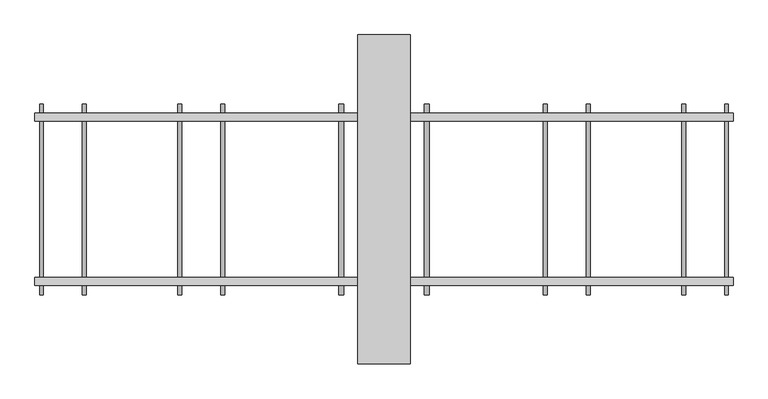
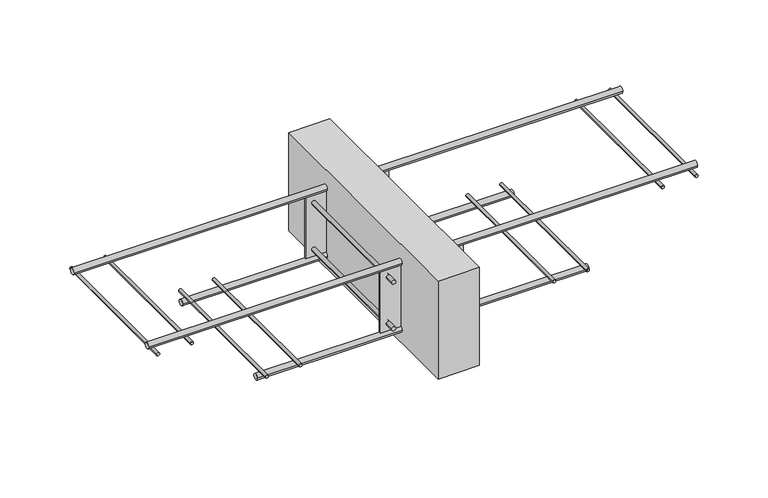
"""IFC4 building model written with IfcOpenShell, lengths in millimetres: proxy geometry, ACINOXplus_Typenreihe_K : KP(A)+."""

import ifcopenshell
import ifcopenshell.guid

model = None  # the IFC model being written
_history = None  # IfcOwnerHistory: only IFC2X3 demands one
_inside = {}  # id of a spatial element -> (the spatial element, [elements in it])
_under = {}  # id of a project, library or spatial element -> (it, [spatial elements below it])
_declared = {}  # id of a project -> (the project, [libraries it declares])
_typed = {}  # id of a type object -> (the type object, [elements of that type])
_made_of = {}  # id of a material, layer set ... -> (it, [elements and type objects made of it])


def new_model(schema):
    """Start an empty IFC model of exactly this schema.

    Asked for "IFC4X3", IfcOpenShell would pick the latest addendum, in which some entities
    have other attributes; the version numbers below select the first issue.
    IFC2X3 requires an IfcOwnerHistory on every rooted entity: one is made here for all.
    """
    global model, _history
    if schema == "IFC4X3":
        model = ifcopenshell.file(schema_version=(4, 3, 0, 0))
    else:
        model = ifcopenshell.file(schema=schema)
    _inside.clear()
    _under.clear()
    _declared.clear()
    _typed.clear()
    _made_of.clear()
    _history = None
    if model.schema == "IFC2X3":
        org = make("IfcOrganization", Name="unknown")
        user = make(
            "IfcPersonAndOrganization",
            ThePerson=make("IfcPerson", FamilyName="unknown"),
            TheOrganization=org,
        )
        app = make(
            "IfcApplication",
            ApplicationDeveloper=org,
            Version="unknown",
            ApplicationFullName="unknown",
            ApplicationIdentifier="unknown",
        )
        _history = make(
            "IfcOwnerHistory",
            OwningUser=user,
            OwningApplication=app,
            ChangeAction="ADDED",
            CreationDate=0,
        )
    return model


def make(cls, **values):
    """One entity of the class cls with the attributes given. An attribute that is None is left unset."""
    return model.create_entity(
        cls, **{name: value for name, value in values.items() if value is not None}
    )


def rooted(cls, **values):
    """An entity with a GlobalId (a new one), such as an element, a storey or a relation."""
    return make(cls, GlobalId=ifcopenshell.guid.new(), OwnerHistory=_history, **values)


def si_unit(unit_type, name, prefix=None):
    """IfcSIUnit, for example si_unit("LENGTHUNIT", "METRE", prefix="MILLI")."""
    return make("IfcSIUnit", UnitType=unit_type, Prefix=prefix, Name=name)


def assignment(units):
    """IfcUnitAssignment: the units of a project."""
    return None if units is None else make("IfcUnitAssignment", Units=units)


def point(xyz):
    """IfcCartesianPoint."""
    return None if xyz is None else make("IfcCartesianPoint", Coordinates=xyz)


def direction(xyz):
    """IfcDirection."""
    return None if xyz is None else make("IfcDirection", DirectionRatios=xyz)


def frame(location, z_axis=None, x_axis=None):
    """IfcAxis2Placement3D, a coordinate frame: its origin and axes. An axis left out is left unset."""
    return make(
        "IfcAxis2Placement3D",
        Location=point(location),
        Axis=direction(z_axis),
        RefDirection=direction(x_axis),
    )


def frame_2d(location, x_axis=None):
    """IfcAxis2Placement2D, a coordinate frame in the plane: its origin and x axis."""
    return make(
        "IfcAxis2Placement2D", Location=point(location), RefDirection=direction(x_axis)
    )


def origin():
    """The frame at (0, 0, 0) with its axes left unset."""
    return frame((0.0, 0.0, 0.0))


def place(relative_to, where):
    """IfcLocalPlacement: puts the frame where relative to a parent placement (None: the world)."""
    return make(
        "IfcLocalPlacement", PlacementRelTo=relative_to, RelativePlacement=where
    )


def context(
    kind, dimensions, precision=None, world=None, true_north=None, identifier=None
):
    """IfcGeometricRepresentationContext, for example the 3D "Model" context."""
    return make(
        "IfcGeometricRepresentationContext",
        ContextIdentifier=identifier,
        ContextType=kind,
        CoordinateSpaceDimension=dimensions,
        Precision=precision,
        WorldCoordinateSystem=world,
        TrueNorth=true_north,
    )


def project(units=None, contexts=None):
    """IfcProject with its units and contexts."""
    return rooted(
        "IfcProject",
        Name="project",
        RepresentationContexts=contexts,
        UnitsInContext=assignment(units),
    )


def spatial(cls, under=None, at=None, **own):
    """A site, building, storey or space (cls), placed at a placement, below another one or the project."""
    s = rooted(cls, ObjectPlacement=at, **own)
    if under is not None:
        _under.setdefault(under.id(), (under, []))[1].append(s)
    return s


def polyline(points):
    """IfcPolyline through the points."""
    return make("IfcPolyline", Points=[point(p) for p in points])


def circle_curve(where, radius):
    """IfcCircle in the frame where."""
    return make("IfcCircle", Position=where, Radius=radius)


def trimmed(basis, trim1, trim2, sense, master):
    """IfcTrimmedCurve: the piece of a basis curve between two trims."""
    return make(
        "IfcTrimmedCurve",
        BasisCurve=basis,
        Trim1=trim1,
        Trim2=trim2,
        SenseAgreement=sense,
        MasterRepresentation=master,
    )


def segment(curve, same_sense, transition):
    """IfcCompositeCurveSegment."""
    return make(
        "IfcCompositeCurveSegment",
        Transition=transition,
        SameSense=same_sense,
        ParentCurve=curve,
    )


def composite_curve(segments, self_intersect=None):
    """IfcCompositeCurve: segments joined end to end."""
    return make("IfcCompositeCurve", Segments=segments, SelfIntersect=self_intersect)


def outline(outer, holes=None, kind="AREA"):
    """IfcArbitraryClosedProfileDef: a profile drawn as a closed curve; with holes, ...WithVoids."""
    if holes is None:
        return make("IfcArbitraryClosedProfileDef", ProfileType=kind, OuterCurve=outer)
    return make(
        "IfcArbitraryProfileDefWithVoids",
        ProfileType=kind,
        OuterCurve=outer,
        InnerCurves=holes,
    )


def extrude(swept, where, along, depth):
    """IfcExtrudedAreaSolid: the profile swept, set in the frame where, extruded along a direction by depth."""
    return make(
        "IfcExtrudedAreaSolid",
        SweptArea=swept,
        Position=where,
        ExtrudedDirection=direction(along),
        Depth=depth,
    )


def shape(context_of_items, identifier, shape_type, items):
    """IfcShapeRepresentation: the items that make up one representation, for example the "Body"."""
    return make(
        "IfcShapeRepresentation",
        ContextOfItems=context_of_items,
        RepresentationIdentifier=identifier,
        RepresentationType=shape_type,
        Items=items,
    )


def source(mapping_origin, context_of_items, identifier, shape_type, items):
    """IfcRepresentationMap: a shape defined once, which mapped items show again and again."""
    return make(
        "IfcRepresentationMap",
        MappingOrigin=mapping_origin,
        MappedRepresentation=shape(context_of_items, identifier, shape_type, items),
    )


def transform(
    local_origin,
    x_axis=None,
    y_axis=None,
    z_axis=None,
    scale=None,
    scale2=None,
    scale3=None,
    uniform=True,
):
    """IfcCartesianTransformationOperator3D, or its non-uniform kind. x_axis, y_axis, z_axis: its Axis1, 2, 3."""
    if uniform:
        return make(
            "IfcCartesianTransformationOperator3D",
            Axis1=direction(x_axis),
            Axis2=direction(y_axis),
            LocalOrigin=point(local_origin),
            Scale=scale,
            Axis3=direction(z_axis),
        )
    return make(
        "IfcCartesianTransformationOperator3DnonUniform",
        Axis1=direction(x_axis),
        Axis2=direction(y_axis),
        LocalOrigin=point(local_origin),
        Scale=scale,
        Axis3=direction(z_axis),
        Scale2=scale2,
        Scale3=scale3,
    )


def mapped(mapping_source, mapping_target):
    """IfcMappedItem: shows the shape of a source again, moved by a transform."""
    return make(
        "IfcMappedItem", MappingSource=mapping_source, MappingTarget=mapping_target
    )


def made_of(thing, what):
    """Note that an element or type object is made of a material, layer set ...; save() writes the relation."""
    if what is not None:
        _made_of.setdefault(what.id(), (what, []))[1].append(thing)
    return thing


def element(
    cls,
    number,
    at=None,
    inside=None,
    cuts=None,
    type_object=None,
    material=None,
    context=None,
    identifier="Body",
    shape_type=None,
    held_by="IfcProductDefinitionShape",
    body=None,
    shapes=None,
    **own,
):
    """One element of the class cls, such as IfcWall. Its Tag is "e" and its number.

    at: its placement. inside: the storey or other place that contains it. cuts: it is an
    opening in that element (IfcRelVoidsElement). A single representation is given by context,
    identifier, shape_type and body (its items); several are given by shapes. held_by: the class
    of the entity that holds the representations. save() writes the other relations.
    """
    e = rooted(cls, Tag="e%d" % number, ObjectPlacement=at, **own)
    if body is not None:
        shapes = [shape(context, identifier, shape_type, body)]
    if shapes is not None:
        e.Representation = make(held_by, Representations=shapes)
    if inside is not None:
        _inside.setdefault(inside.id(), (inside, []))[1].append(e)
    if cuts is not None:
        rooted(
            "IfcRelVoidsElement", RelatingBuildingElement=cuts, RelatedOpeningElement=e
        )
    if type_object is not None:
        _typed.setdefault(type_object.id(), (type_object, []))[1].append(e)
    return made_of(e, material)


def aggregate(whole, parts):
    """IfcRelAggregates: a whole, such as a stair, and the parts it consists of."""
    return rooted("IfcRelAggregates", RelatingObject=whole, RelatedObjects=parts)


def save(model, path):
    """Write the relations noted so far, then the file.

    IfcRelAggregates (storeys below a building ...), IfcRelContainedInSpatialStructure (elements
    in a storey), IfcRelDefinesByType, IfcRelAssociatesMaterial and IfcRelDeclares: one each for
    every whole, place, type object, material and project.
    """
    for whole, parts in _under.values():
        aggregate(whole, parts)
    for where, things in _inside.values():
        rooted(
            "IfcRelContainedInSpatialStructure",
            RelatedElements=things,
            RelatingStructure=where,
        )
    for kind, things in _typed.values():
        rooted("IfcRelDefinesByType", RelatedObjects=things, RelatingType=kind)
    for what, things in _made_of.values():
        rooted("IfcRelAssociatesMaterial", RelatedObjects=things, RelatingMaterial=what)
    for by, libraries in _declared.values():
        rooted("IfcRelDeclares", RelatingContext=by, RelatedDefinitions=libraries)
    model.write(path)


def generic_models_ed479000(model_context):
    return source(origin(), model_context, "Body", "SweptSolid", [
        extrude(outline(polyline([(40.0, 250.0), (40.0, -250.0), (-40.0, -250.0), (-40.0, 250.0), (40.0, 250.0)])), frame((0.0, 0.0, -200.0), z_axis=(0.0, 0.0, 1.0), x_axis=(1.0, 0.0, 0.0)), (0.0, 0.0, 1.0), 200.0),
        extrude(outline(polyline([(80.0, -123.5), (80.0, -126.5), (-80.0, -126.5), (-80.0, -123.5), (80.0, -123.5)])), frame((0.0, 0.0, -167.0), z_axis=(0.0, 0.0, 1.0), x_axis=(1.0, 0.0, 0.0)), (0.0, 0.0, 1.0), 125.0),
        extrude(outline(polyline([(80.0, 126.5), (80.0, 123.5), (-80.0, 123.5), (-80.0, 126.5), (80.0, 126.5)])), frame((0.0, 0.0, -167.0), z_axis=(0.0, 0.0, 1.0), x_axis=(1.0, 0.0, 0.0)), (0.0, 0.0, 1.0), 125.0),
        extrude(outline(composite_curve([segment(trimmed(circle_curve(frame_2d((-152.0, -65.0)), 4.0), [point((-152.0, -69.0))], [point((-152.0, -61.0))], False, "CARTESIAN"), True, "CONTINUOUS"), segment(trimmed(circle_curve(frame_2d((-152.0, -65.0)), 4.0), [point((-152.0, -61.0))], [point((-152.0, -69.0))], False, "CARTESIAN"), True, "CONTINUOUS")], self_intersect=False)), frame((0.0, 126.5, 0.0), z_axis=(0.0, 1.0, 0.0), x_axis=(0.0, 0.0, 1.0)), (0.0, 0.0, 1.0), 18.5),
        extrude(outline(composite_curve([segment(trimmed(circle_curve(frame_2d((-152.0, -65.0)), 4.0), [point((-152.0, -61.0))], [point((-152.0, -69.0))], False, "CARTESIAN"), True, "CONTINUOUS"), segment(trimmed(circle_curve(frame_2d((-152.0, -65.0)), 4.0), [point((-152.0, -69.0))], [point((-152.0, -61.0))], False, "CARTESIAN"), True, "CONTINUOUS")], self_intersect=False)), frame((0.0, -145.0, 0.0), z_axis=(0.0, 1.0, 0.0), x_axis=(0.0, 0.0, 1.0)), (0.0, 0.0, 1.0), 18.5),
        extrude(outline(composite_curve([segment(trimmed(circle_curve(frame_2d((-152.0, -65.0)), 4.0), [point((-152.0, -69.0))], [point((-152.0, -61.0))], False, "CARTESIAN"), True, "CONTINUOUS"), segment(trimmed(circle_curve(frame_2d((-152.0, -65.0)), 4.0), [point((-152.0, -61.0))], [point((-152.0, -69.0))], False, "CARTESIAN"), True, "CONTINUOUS")], self_intersect=False)), frame((0.0, -123.5, 0.0), z_axis=(0.0, 1.0, 0.0), x_axis=(0.0, 0.0, 1.0)), (0.0, 0.0, 1.0), 247.0),
        extrude(outline(composite_curve([segment(trimmed(circle_curve(frame_2d((-152.0, 65.0)), 4.0), [point((-152.0, 61.0))], [point((-152.0, 69.0))], False, "CARTESIAN"), True, "CONTINUOUS"), segment(trimmed(circle_curve(frame_2d((-152.0, 65.0)), 4.0), [point((-152.0, 69.0))], [point((-152.0, 61.0))], False, "CARTESIAN"), True, "CONTINUOUS")], self_intersect=False)), frame((0.0, 126.5, 0.0), z_axis=(0.0, 1.0, 0.0), x_axis=(0.0, 0.0, 1.0)), (0.0, 0.0, 1.0), 18.5),
        extrude(outline(composite_curve([segment(trimmed(circle_curve(frame_2d((-152.0, 65.0)), 4.0), [point((-152.0, 69.0))], [point((-152.0, 61.0))], False, "CARTESIAN"), True, "CONTINUOUS"), segment(trimmed(circle_curve(frame_2d((-152.0, 65.0)), 4.0), [point((-152.0, 61.0))], [point((-152.0, 69.0))], False, "CARTESIAN"), True, "CONTINUOUS")], self_intersect=False)), frame((0.0, -145.0, 0.0), z_axis=(0.0, 1.0, 0.0), x_axis=(0.0, 0.0, 1.0)), (0.0, 0.0, 1.0), 18.5),
        extrude(outline(composite_curve([segment(trimmed(circle_curve(frame_2d((-152.0, 65.0)), 4.0), [point((-152.0, 61.0))], [point((-152.0, 69.0))], False, "CARTESIAN"), True, "CONTINUOUS"), segment(trimmed(circle_curve(frame_2d((-152.0, 65.0)), 4.0), [point((-152.0, 69.0))], [point((-152.0, 61.0))], False, "CARTESIAN"), True, "CONTINUOUS")], self_intersect=False)), frame((0.0, -123.5, 0.0), z_axis=(0.0, 1.0, 0.0), x_axis=(0.0, 0.0, 1.0)), (0.0, 0.0, 1.0), 247.0),
        extrude(outline(composite_curve([segment(trimmed(circle_curve(frame_2d((-57.0, -65.0)), 4.0), [point((-57.0, -69.0))], [point((-57.0, -61.0))], False, "CARTESIAN"), True, "CONTINUOUS"), segment(trimmed(circle_curve(frame_2d((-57.0, -65.0)), 4.0), [point((-57.0, -61.0))], [point((-57.0, -69.0))], False, "CARTESIAN"), True, "CONTINUOUS")], self_intersect=False)), frame((0.0, 126.5, 0.0), z_axis=(0.0, 1.0, 0.0), x_axis=(0.0, 0.0, 1.0)), (0.0, 0.0, 1.0), 18.5),
        extrude(outline(composite_curve([segment(trimmed(circle_curve(frame_2d((-57.0, -65.0)), 4.0), [point((-57.0, -61.0))], [point((-57.0, -69.0))], False, "CARTESIAN"), True, "CONTINUOUS"), segment(trimmed(circle_curve(frame_2d((-57.0, -65.0)), 4.0), [point((-57.0, -69.0))], [point((-57.0, -61.0))], False, "CARTESIAN"), True, "CONTINUOUS")], self_intersect=False)), frame((0.0, -145.0, 0.0), z_axis=(0.0, 1.0, 0.0), x_axis=(0.0, 0.0, 1.0)), (0.0, 0.0, 1.0), 18.5),
        extrude(outline(composite_curve([segment(trimmed(circle_curve(frame_2d((-57.0, -65.0)), 4.0), [point((-57.0, -69.0))], [point((-57.0, -61.0))], False, "CARTESIAN"), True, "CONTINUOUS"), segment(trimmed(circle_curve(frame_2d((-57.0, -65.0)), 4.0), [point((-57.0, -61.0))], [point((-57.0, -69.0))], False, "CARTESIAN"), True, "CONTINUOUS")], self_intersect=False)), frame((0.0, -123.5, 0.0), z_axis=(0.0, 1.0, 0.0), x_axis=(0.0, 0.0, 1.0)), (0.0, 0.0, 1.0), 247.0),
        extrude(outline(composite_curve([segment(trimmed(circle_curve(frame_2d((-57.0, 65.0)), 4.0), [point((-57.0, 61.0))], [point((-57.0, 69.0))], False, "CARTESIAN"), True, "CONTINUOUS"), segment(trimmed(circle_curve(frame_2d((-57.0, 65.0)), 4.0), [point((-57.0, 69.0))], [point((-57.0, 61.0))], False, "CARTESIAN"), True, "CONTINUOUS")], self_intersect=False)), frame((0.0, 126.5, 0.0), z_axis=(0.0, 1.0, 0.0), x_axis=(0.0, 0.0, 1.0)), (0.0, 0.0, 1.0), 18.5),
        extrude(outline(composite_curve([segment(trimmed(circle_curve(frame_2d((-57.0, 65.0)), 4.0), [point((-57.0, 69.0))], [point((-57.0, 61.0))], False, "CARTESIAN"), True, "CONTINUOUS"), segment(trimmed(circle_curve(frame_2d((-57.0, 65.0)), 4.0), [point((-57.0, 61.0))], [point((-57.0, 69.0))], False, "CARTESIAN"), True, "CONTINUOUS")], self_intersect=False)), frame((0.0, -145.0, 0.0), z_axis=(0.0, 1.0, 0.0), x_axis=(0.0, 0.0, 1.0)), (0.0, 0.0, 1.0), 18.5),
        extrude(outline(composite_curve([segment(trimmed(circle_curve(frame_2d((-57.0, 65.0)), 4.0), [point((-57.0, 61.0))], [point((-57.0, 69.0))], False, "CARTESIAN"), True, "CONTINUOUS"), segment(trimmed(circle_curve(frame_2d((-57.0, 65.0)), 4.0), [point((-57.0, 69.0))], [point((-57.0, 61.0))], False, "CARTESIAN"), True, "CONTINUOUS")], self_intersect=False)), frame((0.0, -123.5, 0.0), z_axis=(0.0, 1.0, 0.0), x_axis=(0.0, 0.0, 1.0)), (0.0, 0.0, 1.0), 247.0),
        extrude(outline(composite_curve([segment(trimmed(circle_curve(frame_2d((125.0, -173.0)), 6.0), [point((119.0, -173.0))], [point((131.0, -173.0))], False, "CARTESIAN"), True, "CONTINUOUS"), segment(trimmed(circle_curve(frame_2d((125.0, -173.0)), 6.0), [point((131.0, -173.0))], [point((119.0, -173.0))], False, "CARTESIAN"), True, "CONTINUOUS")], self_intersect=False)), frame((-320.0, 0.0, 0.0), z_axis=(1.0, 0.0, 0.0), x_axis=(0.0, 1.0, 0.0)), (0.0, 0.0, 1.0), 640.0),
        extrude(outline(composite_curve([segment(trimmed(circle_curve(frame_2d((-125.0, -173.0)), 6.0), [point((-131.0, -173.0))], [point((-119.0, -173.0))], False, "CARTESIAN"), True, "CONTINUOUS"), segment(trimmed(circle_curve(frame_2d((-125.0, -173.0)), 6.0), [point((-119.0, -173.0))], [point((-131.0, -173.0))], False, "CARTESIAN"), True, "CONTINUOUS")], self_intersect=False)), frame((-320.0, 0.0, 0.0), z_axis=(1.0, 0.0, 0.0), x_axis=(0.0, 1.0, 0.0)), (0.0, 0.0, 1.0), 640.0),
        extrude(outline(composite_curve([segment(trimmed(circle_curve(frame_2d((125.0, -36.0)), 6.0), [point((119.0, -36.0))], [point((131.0, -36.0))], False, "CARTESIAN"), True, "CONTINUOUS"), segment(trimmed(circle_curve(frame_2d((125.0, -36.0)), 6.0), [point((131.0, -36.0))], [point((119.0, -36.0))], False, "CARTESIAN"), True, "CONTINUOUS")], self_intersect=False)), frame((-530.0, 0.0, 0.0), z_axis=(1.0, 0.0, 0.0), x_axis=(0.0, 1.0, 0.0)), (0.0, 0.0, 1.0), 1060.0),
        extrude(outline(composite_curve([segment(trimmed(circle_curve(frame_2d((-125.0, -36.0)), 6.0), [point((-131.0, -36.0))], [point((-119.0, -36.0))], False, "CARTESIAN"), True, "CONTINUOUS"), segment(trimmed(circle_curve(frame_2d((-125.0, -36.0)), 6.0), [point((-119.0, -36.0))], [point((-131.0, -36.0))], False, "CARTESIAN"), True, "CONTINUOUS")], self_intersect=False)), frame((-530.0, 0.0, 0.0), z_axis=(1.0, 0.0, 0.0), x_axis=(0.0, 1.0, 0.0)), (0.0, 0.0, 1.0), 1060.0),
        extrude(outline(composite_curve([segment(trimmed(circle_curve(frame_2d((-164.0, -310.0)), 3.0), [point((-164.0, -307.0))], [point((-164.0, -313.0))], False, "CARTESIAN"), True, "CONTINUOUS"), segment(trimmed(circle_curve(frame_2d((-164.0, -310.0)), 3.0), [point((-164.0, -313.0))], [point((-164.0, -307.0))], False, "CARTESIAN"), True, "CONTINUOUS")], self_intersect=False)), frame((0.0, -145.0, 0.0), z_axis=(0.0, 1.0, 0.0), x_axis=(0.0, 0.0, 1.0)), (0.0, 0.0, 1.0), 290.0),
        extrude(outline(composite_curve([segment(trimmed(circle_curve(frame_2d((-164.0, -245.0)), 3.0), [point((-164.0, -242.0))], [point((-164.0, -248.0))], False, "CARTESIAN"), True, "CONTINUOUS"), segment(trimmed(circle_curve(frame_2d((-164.0, -245.0)), 3.0), [point((-164.0, -248.0))], [point((-164.0, -242.0))], False, "CARTESIAN"), True, "CONTINUOUS")], self_intersect=False)), frame((0.0, -145.0, 0.0), z_axis=(0.0, 1.0, 0.0), x_axis=(0.0, 0.0, 1.0)), (0.0, 0.0, 1.0), 290.0),
        extrude(outline(composite_curve([segment(trimmed(circle_curve(frame_2d((-164.0, 245.0)), 3.0), [point((-164.0, 248.0))], [point((-164.0, 242.0))], False, "CARTESIAN"), True, "CONTINUOUS"), segment(trimmed(circle_curve(frame_2d((-164.0, 245.0)), 3.0), [point((-164.0, 242.0))], [point((-164.0, 248.0))], False, "CARTESIAN"), True, "CONTINUOUS")], self_intersect=False)), frame((0.0, -145.0, 0.0), z_axis=(0.0, 1.0, 0.0), x_axis=(0.0, 0.0, 1.0)), (0.0, 0.0, 1.0), 290.0),
        extrude(outline(composite_curve([segment(trimmed(circle_curve(frame_2d((-164.0, 310.0)), 3.0), [point((-164.0, 313.0))], [point((-164.0, 307.0))], False, "CARTESIAN"), True, "CONTINUOUS"), segment(trimmed(circle_curve(frame_2d((-164.0, 310.0)), 3.0), [point((-164.0, 307.0))], [point((-164.0, 313.0))], False, "CARTESIAN"), True, "CONTINUOUS")], self_intersect=False)), frame((0.0, -145.0, 0.0), z_axis=(0.0, 1.0, 0.0), x_axis=(0.0, 0.0, 1.0)), (0.0, 0.0, 1.0), 290.0),
        extrude(outline(composite_curve([segment(trimmed(circle_curve(frame_2d((-45.0, 455.0)), 3.0), [point((-45.0, 458.0))], [point((-45.0, 452.0))], False, "CARTESIAN"), True, "CONTINUOUS"), segment(trimmed(circle_curve(frame_2d((-45.0, 455.0)), 3.0), [point((-45.0, 452.0))], [point((-45.0, 458.0))], False, "CARTESIAN"), True, "CONTINUOUS")], self_intersect=False)), frame((0.0, -145.0, 0.0), z_axis=(0.0, 1.0, 0.0), x_axis=(0.0, 0.0, 1.0)), (0.0, 0.0, 1.0), 290.0),
        extrude(outline(composite_curve([segment(trimmed(circle_curve(frame_2d((-45.0, 520.0)), 3.0), [point((-45.0, 523.0))], [point((-45.0, 517.0))], False, "CARTESIAN"), True, "CONTINUOUS"), segment(trimmed(circle_curve(frame_2d((-45.0, 520.0)), 3.0), [point((-45.0, 517.0))], [point((-45.0, 523.0))], False, "CARTESIAN"), True, "CONTINUOUS")], self_intersect=False)), frame((0.0, -145.0, 0.0), z_axis=(0.0, 1.0, 0.0), x_axis=(0.0, 0.0, 1.0)), (0.0, 0.0, 1.0), 290.0),
        extrude(outline(composite_curve([segment(trimmed(circle_curve(frame_2d((-45.0, -520.0)), 3.0), [point((-45.0, -517.0))], [point((-45.0, -523.0))], False, "CARTESIAN"), True, "CONTINUOUS"), segment(trimmed(circle_curve(frame_2d((-45.0, -520.0)), 3.0), [point((-45.0, -523.0))], [point((-45.0, -517.0))], False, "CARTESIAN"), True, "CONTINUOUS")], self_intersect=False)), frame((0.0, -145.0, 0.0), z_axis=(0.0, 1.0, 0.0), x_axis=(0.0, 0.0, 1.0)), (0.0, 0.0, 1.0), 290.0),
        extrude(outline(composite_curve([segment(trimmed(circle_curve(frame_2d((-45.0, -455.0)), 3.0), [point((-45.0, -452.0))], [point((-45.0, -458.0))], False, "CARTESIAN"), True, "CONTINUOUS"), segment(trimmed(circle_curve(frame_2d((-45.0, -455.0)), 3.0), [point((-45.0, -458.0))], [point((-45.0, -452.0))], False, "CARTESIAN"), True, "CONTINUOUS")], self_intersect=False)), frame((0.0, -145.0, 0.0), z_axis=(0.0, 1.0, 0.0), x_axis=(0.0, 0.0, 1.0)), (0.0, 0.0, 1.0), 290.0),
    ])


if __name__ == "__main__":
    model = new_model("IFC4")
    model_context = context("Model", 3, world=origin())
    ifc_project = project(units=[si_unit("LENGTHUNIT", "METRE", prefix="MILLI")], contexts=[model_context])
    site = spatial("IfcSite", under=ifc_project)
    building = spatial("IfcBuilding", under=site)
    placement = place(None, origin())
    generic_models_shape = generic_models_ed479000(model_context)
    element("IfcBuildingElementProxy", 1, Name="ACINOXplus_Typenreihe_K : KP(A)+", ObjectType="ACINOXplus_Typenreihe_K : KP(A)+", at=placement, inside=building, context=model_context, shape_type="MappedRepresentation", body=[
        mapped(generic_models_shape, transform((0.0, 0.0, 0.0), x_axis=(1.0, 0.0, 0.0), y_axis=(0.0, 1.0, 0.0), z_axis=(0.0, 0.0, 1.0))),
    ])
    save(model, "model.ifc")
